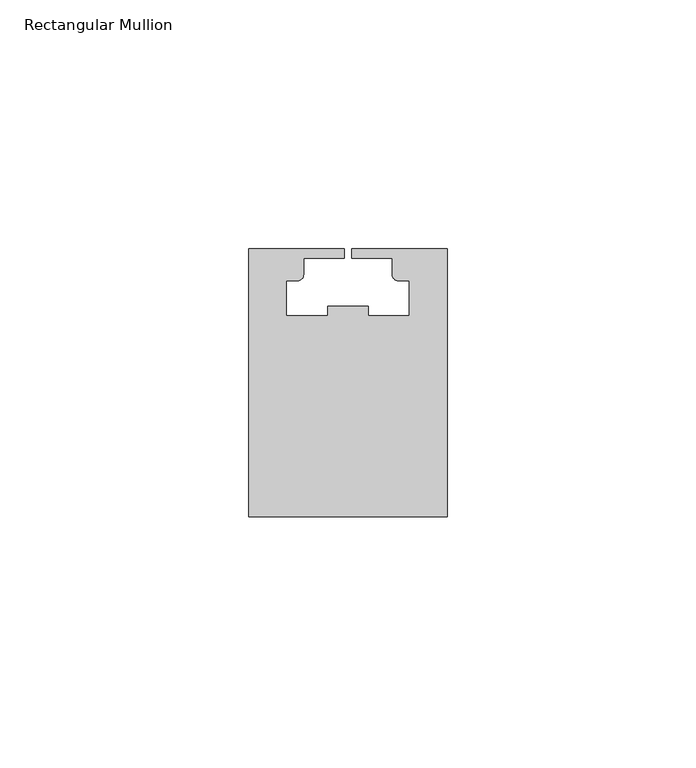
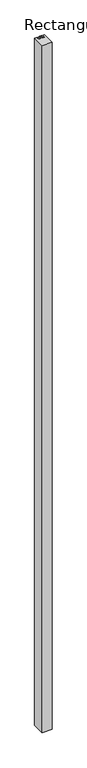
"""IFC4 building model written with IfcOpenShell, lengths in millimetres: member geometry, Rectangular Mullion : NLRS_21_CWM_drager SD.054 - links_Storax."""

from ifc_helpers import new_model, si_unit, point, frame, frame_2d, origin, place, context, project, spatial, polyline, circle_curve, trimmed, segment, composite_curve, outline, extrude, source, transform, mapped, element, save


def rectangular_mullion_9b796d85(model_context):
    return source(origin(), model_context, "Body", "SweptSolid", [
        extrude(outline(composite_curve([segment(polyline([(-90.0, -1.0), (-70.7528633, -1.0), (-70.7528633, -3.0), (-78.9220615, -3.0), (-78.9220615, -6.2788187)]), True, "CONTINUOUS"), segment(trimmed(circle_curve(frame_2d((-80.1231703, -6.2788187)), 1.2011087), [point((-78.9220615, -6.2788187))], [point((-80.1231703, -7.4799274))], False, "CARTESIAN"), True, "CONTINUOUS"), segment(polyline([(-80.1231703, -7.4799274), (-82.3724438, -7.4799274), (-82.3724438, -14.5683484), (-74.0479621, -14.5683484), (-74.0479621, -12.5683484), (-65.9520379, -12.5683484), (-65.9520379, -14.5683484), (-57.6275562, -14.5683484), (-57.6275562, -7.4799274), (-59.8768297, -7.4799274)]), True, "CONTINUOUS"), segment(trimmed(circle_curve(frame_2d((-59.8768297, -6.2788187)), 1.2011087), [point((-59.8768297, -7.4799274))], [point((-61.0779385, -6.2788187))], False, "CARTESIAN"), True, "CONTINUOUS"), segment(polyline([(-61.0779385, -6.2788187), (-61.0779385, -3.0), (-69.2471367, -3.0), (-69.2471367, -1.0), (-50.0, -1.0), (-50.0, -55.0), (-90.0, -55.0), (-90.0, -1.0)]), True, "CONTINUOUS")], self_intersect=False)), frame((0.0, 0.0, -3000.0), z_axis=(0.0, 0.0, 1.0), x_axis=(1.0, 0.0, 0.0)), (0.0, 0.0, 1.0), 3000.0),
    ])


if __name__ == "__main__":
    model = new_model("IFC4")
    model_context = context("Model", 3, world=origin())
    ifc_project = project(units=[si_unit("LENGTHUNIT", "METRE", prefix="MILLI")], contexts=[model_context])
    site = spatial("IfcSite", under=ifc_project)
    building = spatial("IfcBuilding", under=site)
    placement = place(None, origin())
    rectangular_mullion_shape = rectangular_mullion_9b796d85(model_context)
    element("IfcMember", 1, ObjectType="Rectangular Mullion : NLRS_21_CWM_drager SD.054 - links_Storax", at=placement, inside=building, context=model_context, shape_type="MappedRepresentation", body=[
        mapped(rectangular_mullion_shape, transform((0.0, 0.0, 0.0), x_axis=(1.0, 0.0, 0.0), y_axis=(0.0, 1.0, 0.0), z_axis=(0.0, 0.0, 1.0))),
    ])
    save(model, "model.ifc")
